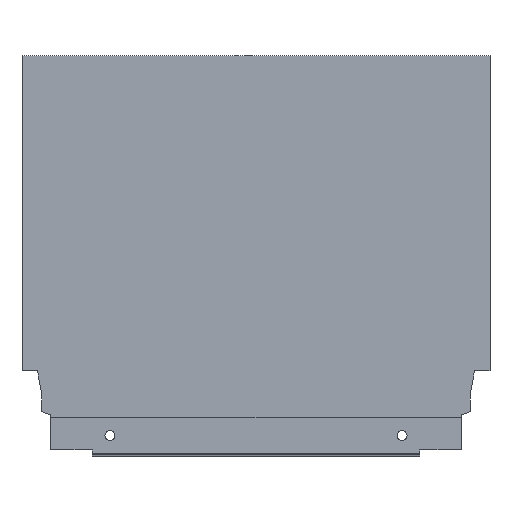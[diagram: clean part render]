
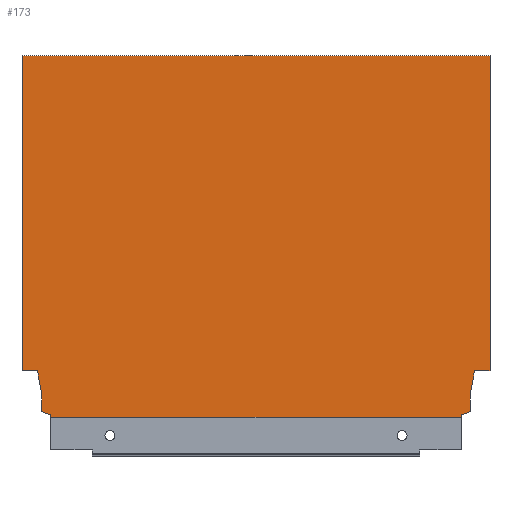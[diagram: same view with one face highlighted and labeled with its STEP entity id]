
A CAD part, top view. The second image highlights one B-rep face of the part: STEP entity #173.
In plain terms, the highlighted planar face has unit normal (0, 0, 1).
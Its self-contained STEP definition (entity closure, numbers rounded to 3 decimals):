
#50 = FACE_OUTER_BOUND ( 'NONE', #94, .T. ) ;
#94 = EDGE_LOOP ( 'NONE', ( #306, #379, #380, #375, #376, #377, #369, #367, #366, #371, #370, #368, #362, #365 ) ) ;
#165 = VECTOR ( 'NONE', #867, 1000. ) ;
#173 = ADVANCED_FACE ( 'NONE', ( #50 ), #1116, .T. ) ;
#306 = ORIENTED_EDGE ( 'NONE', *, *, #603, .T. ) ;
#362 = ORIENTED_EDGE ( 'NONE', *, *, #592, .F. ) ;
#365 = ORIENTED_EDGE ( 'NONE', *, *, #595, .F. ) ;
#366 = ORIENTED_EDGE ( 'NONE', *, *, #594, .F. ) ;
#367 = ORIENTED_EDGE ( 'NONE', *, *, #596, .F. ) ;
#368 = ORIENTED_EDGE ( 'NONE', *, *, #597, .F. ) ;
#369 = ORIENTED_EDGE ( 'NONE', *, *, #609, .T. ) ;
#370 = ORIENTED_EDGE ( 'NONE', *, *, #599, .F. ) ;
#371 = ORIENTED_EDGE ( 'NONE', *, *, #601, .F. ) ;
#375 = ORIENTED_EDGE ( 'NONE', *, *, #598, .F. ) ;
#376 = ORIENTED_EDGE ( 'NONE', *, *, #605, .F. ) ;
#377 = ORIENTED_EDGE ( 'NONE', *, *, #604, .F. ) ;
#379 = ORIENTED_EDGE ( 'NONE', *, *, #600, .F. ) ;
#380 = ORIENTED_EDGE ( 'NONE', *, *, #607, .F. ) ;
#431 = LINE ( 'NONE', #866, #165 ) ;
#442 = VECTOR ( 'NONE', #900, 1000. ) ;
#443 = LINE ( 'NONE', #898, #442 ) ;
#446 = VECTOR ( 'NONE', #901, 1000. ) ;
#450 = LINE ( 'NONE', #847, #474 ) ;
#451 = VECTOR ( 'NONE', #845, 1000. ) ;
#452 = LINE ( 'NONE', #761, #451 ) ;
#454 = VECTOR ( 'NONE', #920, 1000. ) ;
#455 = LINE ( 'NONE', #919, #454 ) ;
#457 = VECTOR ( 'NONE', #918, 1000. ) ;
#458 = VECTOR ( 'NONE', #914, 1000. ) ;
#459 = LINE ( 'NONE', #912, #458 ) ;
#462 = VECTOR ( 'NONE', #906, 1000. ) ;
#463 = LINE ( 'NONE', #905, #462 ) ;
#464 = VECTOR ( 'NONE', #911, 1000. ) ;
#465 = LINE ( 'NONE', #913, #464 ) ;
#466 = VECTOR ( 'NONE', #917, 1000. ) ;
#467 = LINE ( 'NONE', #897, #466 ) ;
#468 = VECTOR ( 'NONE', #916, 1000. ) ;
#469 = LINE ( 'NONE', #894, #468 ) ;
#470 = VECTOR ( 'NONE', #759, 1000. ) ;
#471 = LINE ( 'NONE', #756, #470 ) ;
#472 = VECTOR ( 'NONE', #757, 1000. ) ;
#473 = LINE ( 'NONE', #758, #472 ) ;
#474 = VECTOR ( 'NONE', #848, 1000. ) ;
#475 = LINE ( 'NONE', #899, #446 ) ;
#592 = EDGE_CURVE ( 'NONE', #1030, #1086, #431, .T. ) ;
#594 = EDGE_CURVE ( 'NONE', #987, #977, #452, .T. ) ;
#595 = EDGE_CURVE ( 'NONE', #1029, #1030, #450, .T. ) ;
#596 = EDGE_CURVE ( 'NONE', #977, #1054, #473, .T. ) ;
#597 = EDGE_CURVE ( 'NONE', #1086, #976, #471, .T. ) ;
#598 = EDGE_CURVE ( 'NONE', #1051, #1061, #469, .T. ) ;
#599 = EDGE_CURVE ( 'NONE', #976, #985, #467, .T. ) ;
#600 = EDGE_CURVE ( 'NONE', #1358, #1056, #465, .T. ) ;
#601 = EDGE_CURVE ( 'NONE', #985, #987, #463, .T. ) ;
#603 = EDGE_CURVE ( 'NONE', #1029, #1056, #459, .T. ) ;
#604 = EDGE_CURVE ( 'NONE', #1048, #1059, #681, .T. ) ;
#605 = EDGE_CURVE ( 'NONE', #1059, #1051, #455, .T. ) ;
#607 = EDGE_CURVE ( 'NONE', #1061, #1358, #475, .T. ) ;
#609 = EDGE_CURVE ( 'NONE', #1048, #1054, #443, .T. ) ;
#644 = AXIS2_PLACEMENT_3D ( 'NONE', #1026, #1271, #1272 ) ;
#681 = LINE ( 'NONE', #863, #457 ) ;
#737 = CARTESIAN_POINT ( 'NONE',  ( -8.9, 2.64, 7.5 ) ) ;
#739 = CARTESIAN_POINT ( 'NONE',  ( -8.9, 10.765, 7.5 ) ) ;
#746 = CARTESIAN_POINT ( 'NONE',  ( -7.06, 21.2, 7.5 ) ) ;
#749 = CARTESIAN_POINT ( 'NONE',  ( -13.004, 1.146, 7.5 ) ) ;
#756 = CARTESIAN_POINT ( 'NONE',  ( 0., 21.2, 7.5 ) ) ;
#757 = DIRECTION ( 'NONE',  ( 0., -1., 0. ) ) ;
#758 = CARTESIAN_POINT ( 'NONE',  ( -13.004, 1.146, 7.5 ) ) ;
#759 = DIRECTION ( 'NONE',  ( -1., 0., 0. ) ) ;
#760 = CARTESIAN_POINT ( 'NONE',  ( 0., 164.7, 7.5 ) ) ;
#761 = CARTESIAN_POINT ( 'NONE',  ( -8.9, 2.64, 7.5 ) ) ;
#762 = CARTESIAN_POINT ( 'NONE',  ( -213., 164.7, 7.5 ) ) ;
#780 = CARTESIAN_POINT ( 'NONE',  ( -205.94, 21.2, 7.5 ) ) ;
#803 = CARTESIAN_POINT ( 'NONE',  ( -204.1, 10.765, 7.5 ) ) ;
#805 = CARTESIAN_POINT ( 'NONE',  ( -213., 21.2, 7.5 ) ) ;
#808 = CARTESIAN_POINT ( 'NONE',  ( -199.996, 1.146, 7.5 ) ) ;
#811 = CARTESIAN_POINT ( 'NONE',  ( -13.004, 0., 7.5 ) ) ;
#813 = CARTESIAN_POINT ( 'NONE',  ( -199.996, 0., 7.5 ) ) ;
#816 = CARTESIAN_POINT ( 'NONE',  ( -204.1, 2.64, 7.5 ) ) ;
#821 = CARTESIAN_POINT ( 'NONE',  ( 0., 21.2, 7.5 ) ) ;
#845 = DIRECTION ( 'NONE',  ( -0.94, -0.342, 0. ) ) ;
#847 = CARTESIAN_POINT ( 'NONE',  ( -213., 164.7, 7.5 ) ) ;
#848 = DIRECTION ( 'NONE',  ( 1., 0., 0. ) ) ;
#863 = CARTESIAN_POINT ( 'NONE',  ( -199.996, 1.146, 7.5 ) ) ;
#866 = CARTESIAN_POINT ( 'NONE',  ( 0., 0., 7.5 ) ) ;
#867 = DIRECTION ( 'NONE',  ( 0., -1., 0. ) ) ;
#894 = CARTESIAN_POINT ( 'NONE',  ( -204.1, 10.765, 7.5 ) ) ;
#897 = CARTESIAN_POINT ( 'NONE',  ( -7.06, 21.2, 7.5 ) ) ;
#898 = CARTESIAN_POINT ( 'NONE',  ( -213., 0., 7.5 ) ) ;
#899 = CARTESIAN_POINT ( 'NONE',  ( -205.94, 21.2, 7.5 ) ) ;
#900 = DIRECTION ( 'NONE',  ( 1., 0., 0. ) ) ;
#901 = DIRECTION ( 'NONE',  ( -0.174, 0.985, 0. ) ) ;
#905 = CARTESIAN_POINT ( 'NONE',  ( -8.9, 10.765, 7.5 ) ) ;
#906 = DIRECTION ( 'NONE',  ( 0., -1., 0. ) ) ;
#911 = DIRECTION ( 'NONE',  ( -1., 0., 0. ) ) ;
#912 = CARTESIAN_POINT ( 'NONE',  ( -213., 0., 7.5 ) ) ;
#913 = CARTESIAN_POINT ( 'NONE',  ( -218., 21.2, 7.5 ) ) ;
#914 = DIRECTION ( 'NONE',  ( 0., -1., 0. ) ) ;
#916 = DIRECTION ( 'NONE',  ( 0., 1., 0. ) ) ;
#917 = DIRECTION ( 'NONE',  ( -0.174, -0.985, 0. ) ) ;
#918 = DIRECTION ( 'NONE',  ( 0., 1., 0. ) ) ;
#919 = CARTESIAN_POINT ( 'NONE',  ( -204.1, 2.64, 7.5 ) ) ;
#920 = DIRECTION ( 'NONE',  ( -0.94, 0.342, 0. ) ) ;
#976 = VERTEX_POINT ( 'NONE', #746 ) ;
#977 = VERTEX_POINT ( 'NONE', #749 ) ;
#985 = VERTEX_POINT ( 'NONE', #739 ) ;
#987 = VERTEX_POINT ( 'NONE', #737 ) ;
#1026 = CARTESIAN_POINT ( 'NONE',  ( -213., 0., 7.5 ) ) ;
#1029 = VERTEX_POINT ( 'NONE', #762 ) ;
#1030 = VERTEX_POINT ( 'NONE', #760 ) ;
#1048 = VERTEX_POINT ( 'NONE', #813 ) ;
#1051 = VERTEX_POINT ( 'NONE', #816 ) ;
#1054 = VERTEX_POINT ( 'NONE', #811 ) ;
#1056 = VERTEX_POINT ( 'NONE', #805 ) ;
#1059 = VERTEX_POINT ( 'NONE', #808 ) ;
#1061 = VERTEX_POINT ( 'NONE', #803 ) ;
#1086 = VERTEX_POINT ( 'NONE', #821 ) ;
#1116 = PLANE ( 'NONE',  #644 ) ;
#1271 = DIRECTION ( 'NONE',  ( 0., 0., 1. ) ) ;
#1272 = DIRECTION ( 'NONE',  ( 1., 0., 0. ) ) ;
#1358 = VERTEX_POINT ( 'NONE', #780 ) ;
